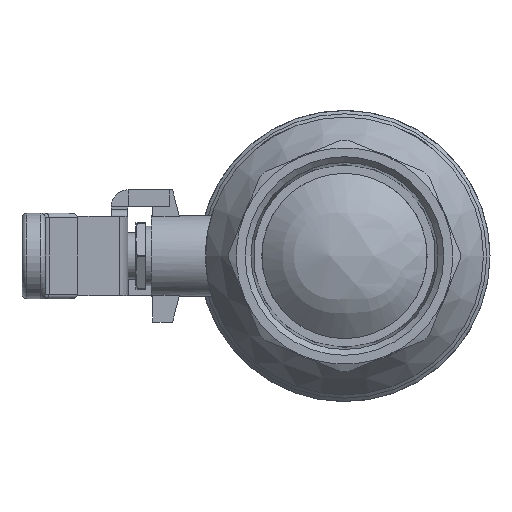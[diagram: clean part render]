
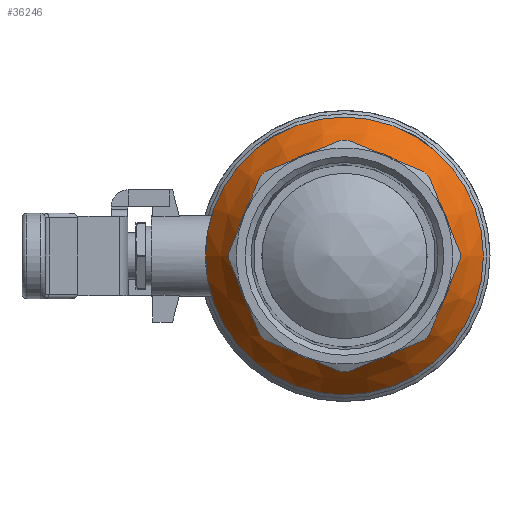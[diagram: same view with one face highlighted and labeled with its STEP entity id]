
A CAD part, left-side view. The second image highlights one B-rep face of the part: STEP entity #36246.
In plain terms, the highlighted conical face has half-angle 35 degrees and reference radius 41.1 mm.
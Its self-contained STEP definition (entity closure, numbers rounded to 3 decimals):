
#36010=CARTESIAN_POINT('',(-14.647,42.0,0.0));
#36011=VERTEX_POINT('',#36010);
#36012=CARTESIAN_POINT('',(-14.647,0.,0.));
#36013=DIRECTION('',(1.0,0.0,0.0));
#36014=DIRECTION('',(0.0,1.0,0.0));
#36015=AXIS2_PLACEMENT_3D('',#36012,#36013,#36014);
#36016=CIRCLE('',#36015,42.0);
#36017=EDGE_CURVE('',#36011,#36011,#36016,.T.);
#36143=CARTESIAN_POINT('',(-27.5,33.0,0.0));
#36144=VERTEX_POINT('',#36143);
#36145=CARTESIAN_POINT('',(-27.5,0.0,0.));
#36146=DIRECTION('',(1.0,0.0,0.0));
#36147=DIRECTION('',(0.0,1.0,0.0));
#36148=AXIS2_PLACEMENT_3D('',#36145,#36146,#36147);
#36149=CIRCLE('',#36148,33.0);
#36150=EDGE_CURVE('',#36144,#36144,#36149,.T.);
#36235=CARTESIAN_POINT('',(-15.932,0.0,0.));
#36236=DIRECTION('',(1.0,0.,0.));
#36237=DIRECTION('',(0.0,0.0,-1.0));
#36238=AXIS2_PLACEMENT_3D('',#36235,#36236,#36237);
#36239=CONICAL_SURFACE('',#36238,41.1,35.);
#36240=ORIENTED_EDGE('',*,*,#36150,.T.);
#36241=EDGE_LOOP('',(#36240));
#36242=FACE_OUTER_BOUND('',#36241,.T.);
#36243=ORIENTED_EDGE('',*,*,#36017,.F.);
#36244=EDGE_LOOP('',(#36243));
#36245=FACE_BOUND('',#36244,.T.);
#36246=ADVANCED_FACE('',(#36242,#36245),#36239,.T.);
